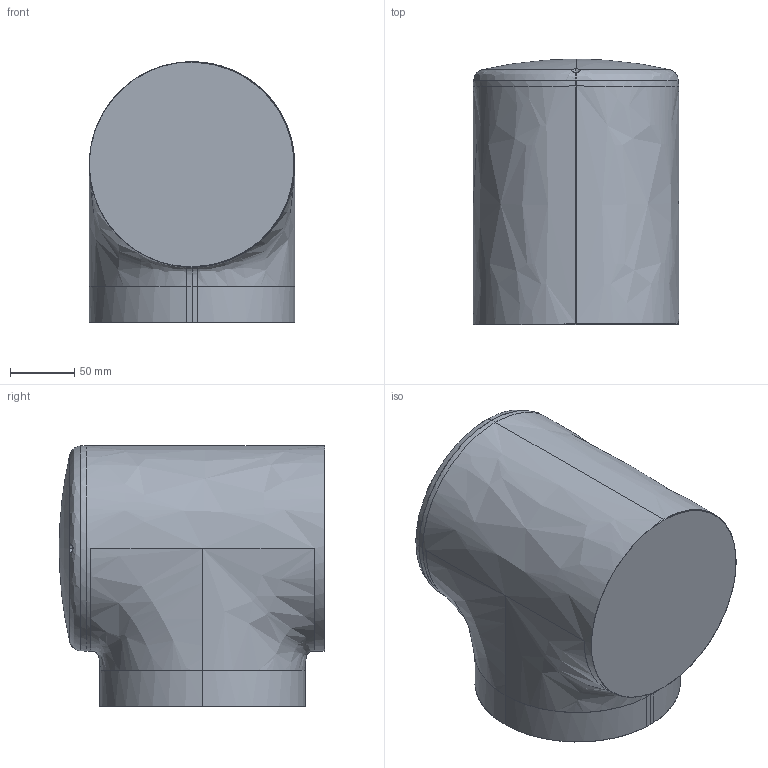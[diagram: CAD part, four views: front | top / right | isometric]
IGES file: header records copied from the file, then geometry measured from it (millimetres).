
Start section: SolidWorks IGES file using analytic representation for surfaces
Global section: file name: C:\data\sap_doc\500000125163\M12\CRB15000_12kg-127_Omnicore_rev00_LINK01_CAD.igs; native system: SolidWorks 2022; preprocessor: SolidWorks 2022; author: CNTAFEN; date: 230705.154158; units: millimetre
Bounding box: 160 x 206.75 x 203.21 mm (x, y, z)
Surface area: 168323.1 mm2 (no closed solid volume)
Topology: 0 solids, 0 shells, 61 faces, 1252 edges, 1250 vertices
Faces by surface type: bspline 39, revolution 22
